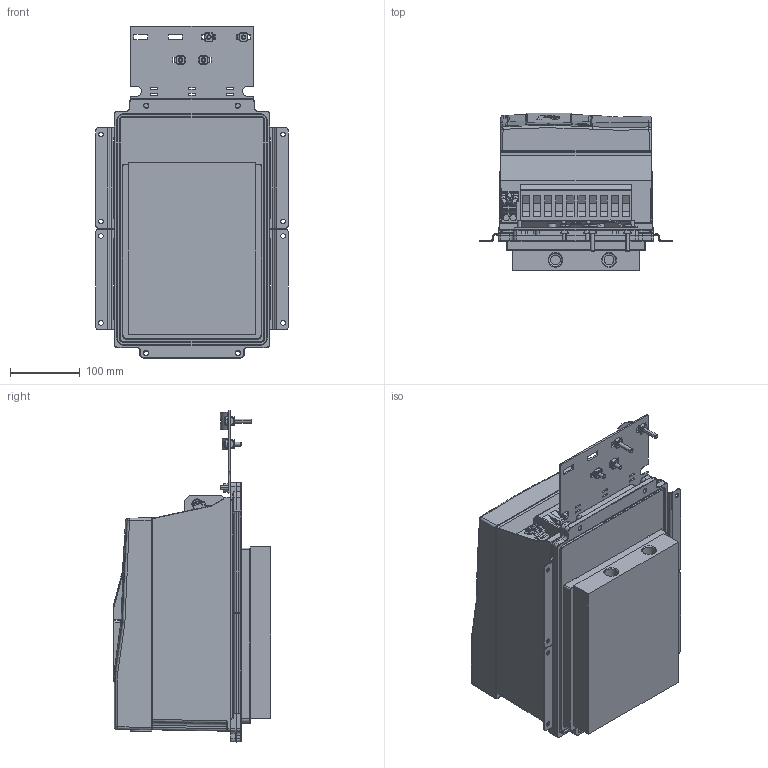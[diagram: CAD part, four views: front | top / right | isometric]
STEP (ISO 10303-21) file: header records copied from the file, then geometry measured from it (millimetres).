
FILE_DESCRIPTION (( 'STEP AP214' ), '1' );
FILE_NAME ('F6-4TK5-A011.STEP', '2020-12-10T12:42:21', ( '' ), ( '' ), 'SwSTEP 2.0', 'SolidWorks 2019', '' );
FILE_SCHEMA (( 'AUTOMOTIVE_DESIGN' ));
Length unit declared in the file: millimetre
Products named in the file (13): 10061645_000; 10060814_000; 10044643_000_Kundenmodell; 10060692_000_Leistungsteil TK5 (Kundenmodell); F6-4TK5-A011; 10059761_000; 10059765_000; 10061644_000_Deckel (Kundenmodell); 10058448_000; 10059764_000_Blindabdeckung (Kundenmodell); 10063070_000; 10044453_000_Schirmung (Kundenmodell); 10032600_000_Kundenmodell
Assembly tree (12 placements, depth 4):
  F6-4TK5-A011
    10060692_000_Leistungsteil TK5 (Kundenmodell)
      10060814_000
    10032600_000_Kundenmodell
      10061644_000_Deckel (Kundenmodell)
        10061645_000
      10058448_000
    10044643_000_Kundenmodell
      10059764_000_Blindabdeckung (Kundenmodell)
        10059765_000
      10059761_000
    10044453_000_Schirmung (Kundenmodell)
      10063070_000
Bounding box: 277 x 226.7 x 477.5 mm (x, y, z)
Volume: 14494939.3 mm3; surface area: 910232.9 mm2
Topology: 12 solids, 32 shells, 3493 faces, 9178 edges, 5782 vertices
Faces by surface type: plane 1575, cylinder 991, bspline 555, torus 184, cone 140, sphere 48
Entity records: 135683 total; most frequent: CARTESIAN_POINT 46994, ORIENTED_EDGE 18238, DIRECTION 15938, EDGE_CURVE 9119, VERTEX_POINT 5780, AXIS2_PLACEMENT_3D 5356, LINE 5226, VECTOR 5226
